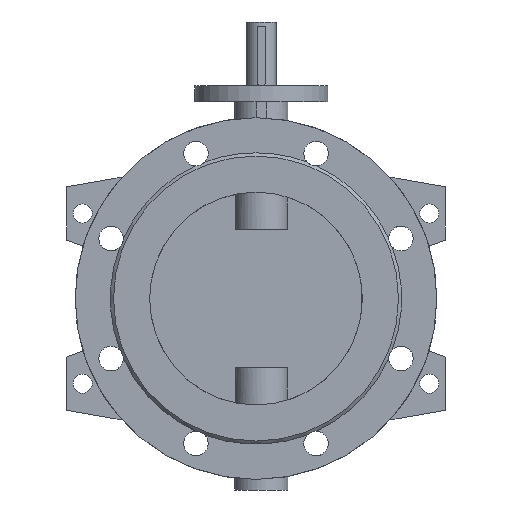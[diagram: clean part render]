
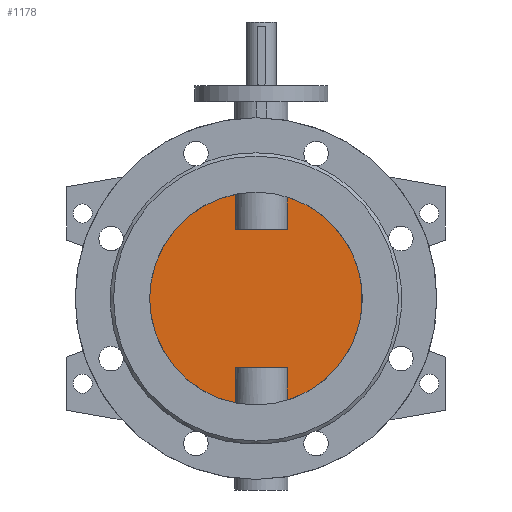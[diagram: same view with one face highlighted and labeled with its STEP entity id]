
A CAD part, front view. The second image highlights one B-rep face of the part: STEP entity #1178.
In plain terms, the highlighted planar face has unit normal (0, -1, 0).
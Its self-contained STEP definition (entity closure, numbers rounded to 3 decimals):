
#1178=ADVANCED_FACE('',(#2384),#2386,.F.);
#2384=FACE_BOUND('',#2385,.T.);
#2385=EDGE_LOOP('',(#3213,#3214,#3215,#3216,#3217,#3218,#3219,#3220));
#2386=PLANE('',#2387);
#2387=AXIS2_PLACEMENT_3D('',#2388,#2389,#2390);
#2388=CARTESIAN_POINT('',(0.,-5.,0.));
#2389=DIRECTION('',(0.,1.,0.));
#2390=DIRECTION('',(1.,0.,0.));
#3213=ORIENTED_EDGE('',*,*,#3638,.T.);
#3214=ORIENTED_EDGE('',*,*,#3644,.T.);
#3215=ORIENTED_EDGE('',*,*,#3645,.T.);
#3216=ORIENTED_EDGE('',*,*,#3646,.T.);
#3217=ORIENTED_EDGE('',*,*,#3640,.T.);
#3218=ORIENTED_EDGE('',*,*,#3647,.T.);
#3219=ORIENTED_EDGE('',*,*,#3648,.T.);
#3220=ORIENTED_EDGE('',*,*,#3649,.T.);
#3638=EDGE_CURVE('',#4285,#4286,#4287,.F.);
#3640=EDGE_CURVE('',#4290,#4288,#4291,.F.);
#3644=EDGE_CURVE('',#4286,#4297,#4298,.T.);
#3645=EDGE_CURVE('',#4297,#4299,#4300,.F.);
#3646=EDGE_CURVE('',#4299,#4290,#4301,.F.);
#3647=EDGE_CURVE('',#4288,#4302,#4303,.F.);
#3648=EDGE_CURVE('',#4302,#4304,#4305,.F.);
#3649=EDGE_CURVE('',#4304,#4285,#4306,.T.);
#4285=VERTEX_POINT('',#7494);
#4286=VERTEX_POINT('',#7495);
#4287=CIRCLE('',#7496,100.);
#4288=VERTEX_POINT('',#7500);
#4290=VERTEX_POINT('',#7596);
#4291=CIRCLE('',#7597,100.);
#4297=VERTEX_POINT('',#7714);
#4298=LINE('',#7715,#7716);
#4299=VERTEX_POINT('',#7718);
#4300=LINE('',#7719,#7720);
#4301=LINE('',#7722,#7723);
#4302=VERTEX_POINT('',#7725);
#4303=LINE('',#7726,#7727);
#4304=VERTEX_POINT('',#7729);
#4305=LINE('',#7730,#7731);
#4306=LINE('',#7733,#7734);
#7494=CARTESIAN_POINT('',(29.495,-5.,-95.551));
#7495=CARTESIAN_POINT('',(29.495,-5.,95.551));
#7496=AXIS2_PLACEMENT_3D('',#7497,#7498,#7499);
#7497=CARTESIAN_POINT('',(0.,-5.,0.));
#7498=DIRECTION('',(0.,1.,0.));
#7499=DIRECTION('',(0.295,0.,0.956));
#7500=CARTESIAN_POINT('',(-19.495,-5.,-98.081));
#7596=CARTESIAN_POINT('',(-19.495,-5.,98.081));
#7597=AXIS2_PLACEMENT_3D('',#7598,#7599,#7600);
#7598=CARTESIAN_POINT('',(0.,-5.,0.));
#7599=DIRECTION('',(0.,1.,0.));
#7600=DIRECTION('',(-0.195,0.,-0.981));
#7714=CARTESIAN_POINT('',(29.495,-5.,65.));
#7715=CARTESIAN_POINT('',(29.495,-5.,95.551));
#7716=VECTOR('',#7717,1.);
#7717=DIRECTION('',(0.,0.,-1.));
#7718=CARTESIAN_POINT('',(-19.495,-5.,65.));
#7719=CARTESIAN_POINT('',(-19.495,-5.,65.));
#7720=VECTOR('',#7721,1.);
#7721=DIRECTION('',(1.,0.,0.));
#7722=CARTESIAN_POINT('',(-19.495,-5.,98.081));
#7723=VECTOR('',#7724,1.);
#7724=DIRECTION('',(0.,0.,-1.));
#7725=CARTESIAN_POINT('',(-19.495,-5.,-65.));
#7726=CARTESIAN_POINT('',(-19.495,-5.,-65.));
#7727=VECTOR('',#7728,1.);
#7728=DIRECTION('',(0.,0.,-1.));
#7729=CARTESIAN_POINT('',(29.495,-5.,-65.));
#7730=CARTESIAN_POINT('',(29.495,-5.,-65.));
#7731=VECTOR('',#7732,1.);
#7732=DIRECTION('',(-1.,0.,0.));
#7733=CARTESIAN_POINT('',(29.495,-5.,-65.));
#7734=VECTOR('',#7735,1.);
#7735=DIRECTION('',(0.,0.,-1.));
